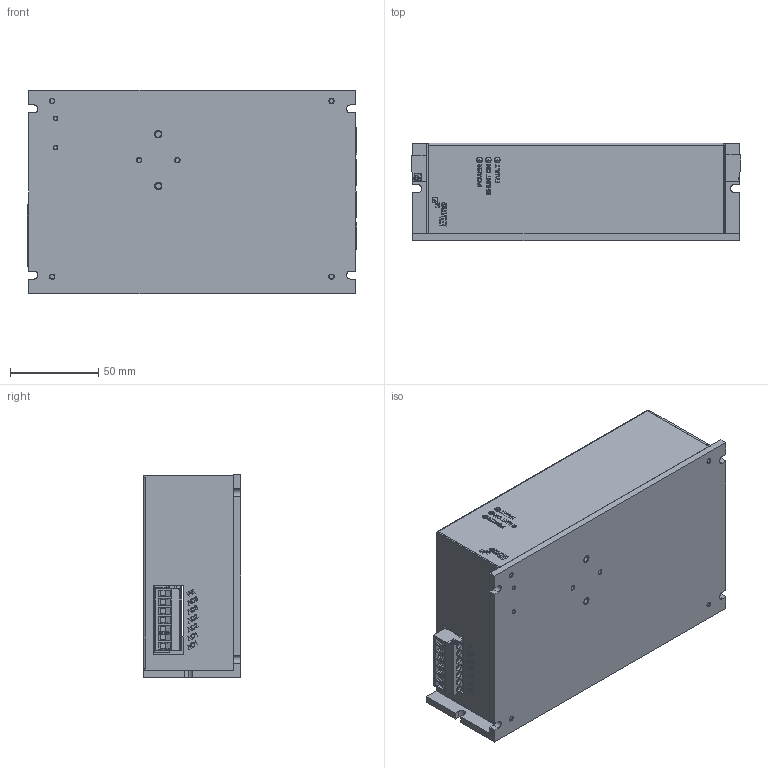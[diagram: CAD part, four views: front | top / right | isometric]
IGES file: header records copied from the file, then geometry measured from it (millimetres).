
Start section: SolidWorks IGES file using analytic representation for surfaces
Global section: file name: E:\marketing\manuals\TAM20\solid\230\230\TAM20-230.IGS; native system: SolidWorks 2012; preprocessor: SolidWorks 2012; author: shlomo; date: 120416.095844; units: millimetre
Bounding box: 186.28 x 55 x 115 mm (x, y, z)
Surface area: 163015.9 mm2 (no closed solid volume)
Topology: 0 solids, 0 shells, 5603 faces, 43442 edges, 43429 vertices
Faces by surface type: bspline 4560, revolution 1043
